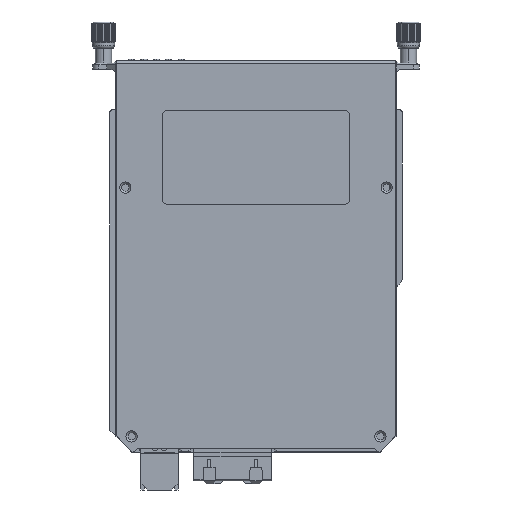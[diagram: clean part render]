
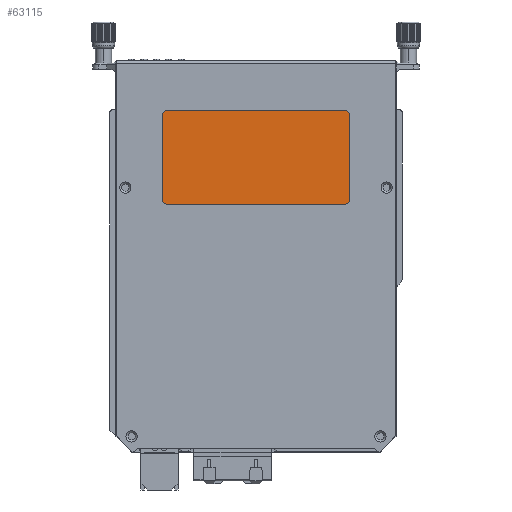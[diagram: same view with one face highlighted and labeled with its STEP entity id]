
A CAD part, front view. The second image highlights one B-rep face of the part: STEP entity #63115.
In plain terms, the highlighted planar face has unit normal (0, -1, 0).
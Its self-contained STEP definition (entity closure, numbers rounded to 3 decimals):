
#40994=CARTESIAN_POINT('',(-28.2,0.2,-17.1));
#40995=DIRECTION('',(0.,1.,0.));
#40996=DIRECTION('',(-1.,0.,0.));
#40997=AXIS2_PLACEMENT_3D('',#40994,#40995,#40996);
#40999=DIRECTION('',(1.,0.,0.));
#41000=VECTOR('',#40999,56.4);
#41001=CARTESIAN_POINT('',(-28.2,0.2,-15.1));
#41002=LINE('',#41001,#41000);
#41003=CARTESIAN_POINT('',(28.2,0.2,-17.1));
#41004=DIRECTION('',(0.,1.,0.));
#41005=DIRECTION('',(0.,0.,1.));
#41006=AXIS2_PLACEMENT_3D('',#41003,#41004,#41005);
#41008=DIRECTION('',(0.,0.,-1.));
#41009=VECTOR('',#41008,26.4);
#41010=CARTESIAN_POINT('',(30.2,0.2,-17.1));
#41011=LINE('',#41010,#41009);
#41012=CARTESIAN_POINT('',(28.2,0.2,-43.5));
#41013=DIRECTION('',(0.,1.,0.));
#41014=DIRECTION('',(1.,0.,0.));
#41015=AXIS2_PLACEMENT_3D('',#41012,#41013,#41014);
#41017=DIRECTION('',(-1.,0.,0.));
#41018=VECTOR('',#41017,56.4);
#41019=CARTESIAN_POINT('',(28.2,0.2,-45.5));
#41020=LINE('',#41019,#41018);
#41021=CARTESIAN_POINT('',(-28.2,0.2,-43.5));
#41022=DIRECTION('',(0.,1.,0.));
#41023=DIRECTION('',(0.,0.,-1.));
#41024=AXIS2_PLACEMENT_3D('',#41021,#41022,#41023);
#41026=DIRECTION('',(0.,0.,1.));
#41027=VECTOR('',#41026,26.4);
#41028=CARTESIAN_POINT('',(-30.2,0.2,-43.5));
#41029=LINE('',#41028,#41027);
#43757=CARTESIAN_POINT('',(-28.2,0.2,-15.1));
#43758=VERTEX_POINT('',#43757);
#43759=CARTESIAN_POINT('',(-30.2,0.2,-17.1));
#43760=VERTEX_POINT('',#43759);
#43761=CARTESIAN_POINT('',(30.2,0.2,-17.1));
#43762=VERTEX_POINT('',#43761);
#43763=CARTESIAN_POINT('',(28.2,0.2,-15.1));
#43764=VERTEX_POINT('',#43763);
#43765=CARTESIAN_POINT('',(28.2,0.2,-45.5));
#43766=VERTEX_POINT('',#43765);
#43767=CARTESIAN_POINT('',(30.2,0.2,-43.5));
#43768=VERTEX_POINT('',#43767);
#43769=CARTESIAN_POINT('',(-30.2,0.2,-43.5));
#43770=VERTEX_POINT('',#43769);
#43771=CARTESIAN_POINT('',(-28.2,0.2,-45.5));
#43772=VERTEX_POINT('',#43771);
#63100=CARTESIAN_POINT('',(0.,0.2,-30.3));
#63101=DIRECTION('',(0.,1.,0.));
#63102=DIRECTION('',(1.,0.,0.));
#63103=AXIS2_PLACEMENT_3D('',#63100,#63101,#63102);
#63104=PLANE('',#63103);
#63105=ORIENTED_EDGE('',*,*,#62940,.T.);
#63106=ORIENTED_EDGE('',*,*,#62962,.T.);
#63107=ORIENTED_EDGE('',*,*,#62983,.T.);
#63108=ORIENTED_EDGE('',*,*,#63004,.T.);
#63109=ORIENTED_EDGE('',*,*,#63025,.T.);
#63110=ORIENTED_EDGE('',*,*,#63046,.T.);
#63111=ORIENTED_EDGE('',*,*,#63067,.T.);
#63112=ORIENTED_EDGE('',*,*,#63087,.T.);
#63113=EDGE_LOOP('',(#63105,#63106,#63107,#63108,#63109,#63110,#63111,#63112));
#63114=FACE_OUTER_BOUND('',#63113,.F.);
#40998=CIRCLE('',#40997,2.);
#41007=CIRCLE('',#41006,2.);
#41016=CIRCLE('',#41015,2.);
#41025=CIRCLE('',#41024,2.);
#62940=EDGE_CURVE('',#43760,#43758,#40998,.T.);
#62962=EDGE_CURVE('',#43758,#43764,#41002,.T.);
#62983=EDGE_CURVE('',#43764,#43762,#41007,.T.);
#63004=EDGE_CURVE('',#43762,#43768,#41011,.T.);
#63025=EDGE_CURVE('',#43768,#43766,#41016,.T.);
#63046=EDGE_CURVE('',#43766,#43772,#41020,.T.);
#63067=EDGE_CURVE('',#43772,#43770,#41025,.T.);
#63087=EDGE_CURVE('',#43770,#43760,#41029,.T.);
#63115=ADVANCED_FACE('',(#63114),#63104,.F.);
